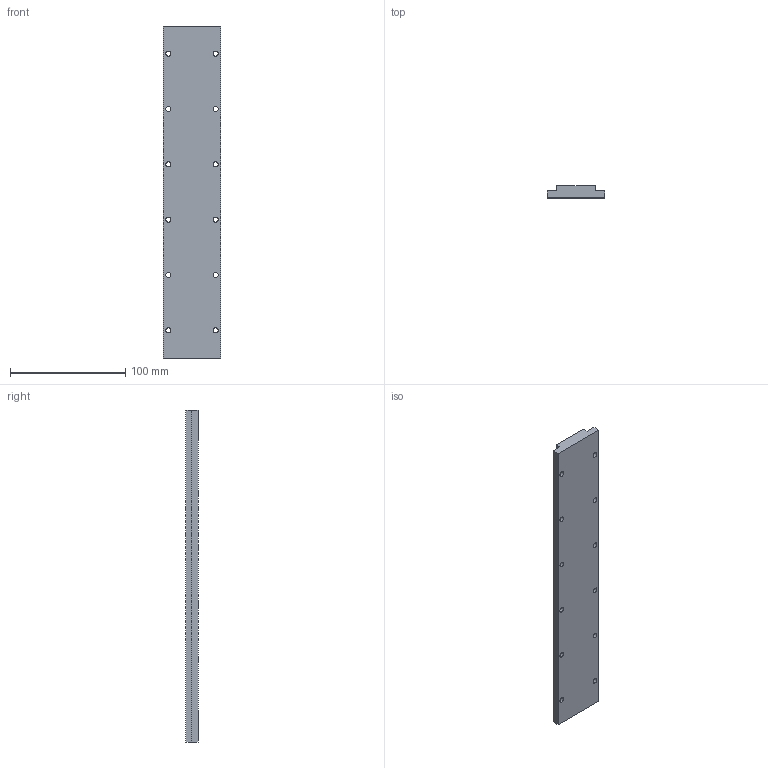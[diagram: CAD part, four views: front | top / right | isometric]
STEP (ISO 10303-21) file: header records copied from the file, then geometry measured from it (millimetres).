
FILE_DESCRIPTION (( 'STEP AP214' ), '1' );
FILE_NAME ('TLT-50-L288.STEP', '2022-04-13T09:10:42', ( 'Microsoft' ), ( 'Microsoft' ), 'SwSTEP 2.0', 'SolidWorks 2016', '' );
FILE_SCHEMA (( 'AUTOMOTIVE_DESIGN' ));
Length unit declared in the file: millimetre
Products named in the file (1): TLT-50-L288
Bounding box: 50 x 10.5 x 288 mm (x, y, z)
Volume: 128670.9 mm3; surface area: 36385.7 mm2
Topology: 1 solids, 1 shells, 34 faces, 96 edges, 64 vertices
Faces by surface type: cylinder 24, plane 10
Entity records: 1210 total; most frequent: DIRECTION 214, CARTESIAN_POINT 195, ORIENTED_EDGE 192, EDGE_CURVE 96, AXIS2_PLACEMENT_3D 83, VERTEX_POINT 64, EDGE_LOOP 58, CIRCLE 48
